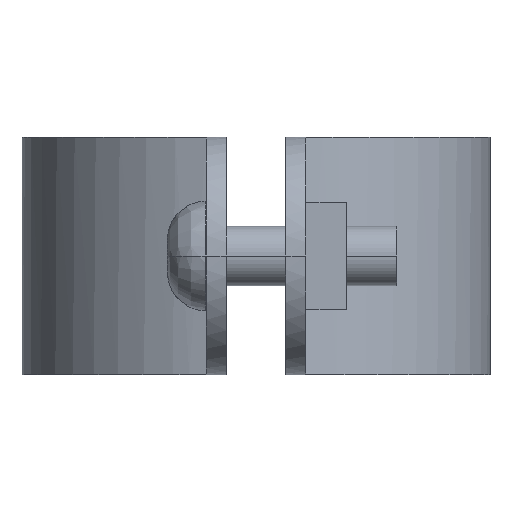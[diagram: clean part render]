
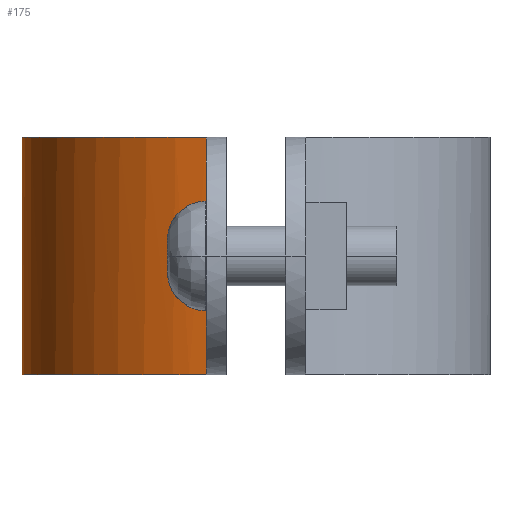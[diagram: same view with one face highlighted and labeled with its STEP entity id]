
A CAD part, left-side view. The second image highlights one B-rep face of the part: STEP entity #175.
In plain terms, the highlighted free-form (B-spline) face has degree [3, 1] with [4, 2] control points.
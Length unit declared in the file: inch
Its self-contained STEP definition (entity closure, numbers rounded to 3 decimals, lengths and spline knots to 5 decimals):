
#175=ADVANCED_FACE('',(#396),#397,.T.);
#396=FACE_OUTER_BOUND('',#727,.T.);
#397=B_SPLINE_SURFACE_WITH_KNOTS('',3,1,((#728,#729),(#730,#731),(#732,#733),(#734,#735)),.UNSPECIFIED.,.F.,.F.,.F.,(4,4),(2,2),(-1.0,-0.0),(0.0,1.25),.UNSPECIFIED.);
#727=EDGE_LOOP('',(#1476,#1477,#1478,#1479));
#728=CARTESIAN_POINT('',(1.93742,2.80166,0.0));
#729=CARTESIAN_POINT('',(1.93742,2.80166,1.25));
#730=CARTESIAN_POINT('',(1.35897,2.80166,0.0));
#731=CARTESIAN_POINT('',(1.35897,2.80166,1.25));
#732=CARTESIAN_POINT('',(0.85876,2.39851,0.0));
#733=CARTESIAN_POINT('',(0.85876,2.39851,1.25));
#734=CARTESIAN_POINT('',(0.73592,1.83327,0.0));
#735=CARTESIAN_POINT('',(0.73592,1.83327,1.25));
#1476=ORIENTED_EDGE('',*,*,#2080,.T.);
#1477=ORIENTED_EDGE('',*,*,#2081,.T.);
#1478=ORIENTED_EDGE('',*,*,#2082,.T.);
#1479=ORIENTED_EDGE('',*,*,#2083,.F.);
#2080=EDGE_CURVE('',#2405,#2406,#2407,.T.);
#2081=EDGE_CURVE('',#2406,#2408,#2409,.T.);
#2082=EDGE_CURVE('',#2408,#2410,#2411,.T.);
#2083=EDGE_CURVE('',#2405,#2410,#2412,.T.);
#2405=VERTEX_POINT('',#2890);
#2406=VERTEX_POINT('',#2891);
#2407=B_SPLINE_CURVE_WITH_KNOTS('',3,(#2892,#2893,#2894,#2895),.UNSPECIFIED.,.F.,.F.,(4,4),(-1.0,-0.0),.UNSPECIFIED.);
#2408=VERTEX_POINT('',#2896);
#2409=LINE('',#2897,#2898);
#2410=VERTEX_POINT('',#2899);
#2411=B_SPLINE_CURVE_WITH_KNOTS('',3,(#2900,#2901,#2902,#2903),.UNSPECIFIED.,.F.,.F.,(4,4),(0.0,1.0),.UNSPECIFIED.);
#2412=LINE('',#2904,#2905);
#2890=CARTESIAN_POINT('',(1.93742,2.80166,0.00011));
#2891=CARTESIAN_POINT('',(0.73592,1.83327,0.00011));
#2892=CARTESIAN_POINT('',(1.93742,2.80166,0.00011));
#2893=CARTESIAN_POINT('',(1.35897,2.80166,0.00011));
#2894=CARTESIAN_POINT('',(0.85876,2.39851,0.00011));
#2895=CARTESIAN_POINT('',(0.73592,1.83327,0.00011));
#2896=CARTESIAN_POINT('',(0.73592,1.83327,1.24989));
#2897=CARTESIAN_POINT('',(0.73592,1.83327,0.0));
#2898=VECTOR('',#3544,1.0);
#2899=CARTESIAN_POINT('',(1.93742,2.80166,1.24989));
#2900=CARTESIAN_POINT('',(0.73592,1.83327,1.24989));
#2901=CARTESIAN_POINT('',(0.85876,2.39851,1.24989));
#2902=CARTESIAN_POINT('',(1.35897,2.80166,1.24989));
#2903=CARTESIAN_POINT('',(1.93742,2.80166,1.24989));
#2904=CARTESIAN_POINT('',(1.93742,2.80166,0.0));
#2905=VECTOR('',#3545,1.0);
#3544=DIRECTION('',(0.0,0.0,1.0));
#3545=DIRECTION('',(0.0,0.0,1.0));
